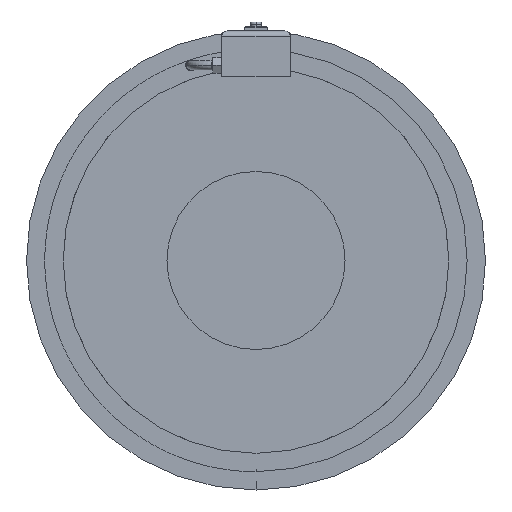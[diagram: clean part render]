
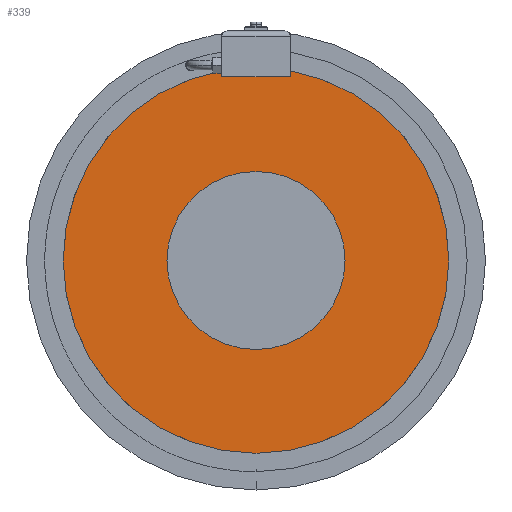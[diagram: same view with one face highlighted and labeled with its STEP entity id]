
A CAD part, front view. The second image highlights one B-rep face of the part: STEP entity #339.
In plain terms, the highlighted planar face has unit normal (0, -1, 0).
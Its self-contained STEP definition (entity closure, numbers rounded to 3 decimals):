
#339=ADVANCED_FACE('',(#714,#715),#716,.T.);
#714=FACE_OUTER_BOUND('',#1094,.T.);
#715=FACE_BOUND('',#1095,.T.);
#716=PLANE('',#1096);
#1094=EDGE_LOOP('',(#2058,#2059,#2060,#2061,#2062));
#1095=EDGE_LOOP('',(#2063,#2064));
#1096=AXIS2_PLACEMENT_3D('',#2065,#2066,#2067);
#2058=ORIENTED_EDGE('',*,*,#2356,.T.);
#2059=ORIENTED_EDGE('',*,*,#2255,.T.);
#2060=ORIENTED_EDGE('',*,*,#2570,.T.);
#2061=ORIENTED_EDGE('',*,*,#2478,.T.);
#2062=ORIENTED_EDGE('',*,*,#2368,.T.);
#2063=ORIENTED_EDGE('',*,*,#2571,.F.);
#2064=ORIENTED_EDGE('',*,*,#2250,.F.);
#2065=CARTESIAN_POINT('',(0.,-143.0,0.));
#2066=DIRECTION('',(0.,-1.0,0.));
#2067=DIRECTION('',(0.,0.0,1.0));
#2250=EDGE_CURVE('',#2731,#2733,#2734,.T.);
#2255=EDGE_CURVE('',#2742,#2739,#2743,.T.);
#2356=EDGE_CURVE('',#2915,#2742,#2916,.T.);
#2368=EDGE_CURVE('',#2937,#2915,#2938,.T.);
#2478=EDGE_CURVE('',#3084,#2937,#3085,.T.);
#2570=EDGE_CURVE('',#2739,#3084,#3208,.T.);
#2571=EDGE_CURVE('',#2733,#2731,#3209,.T.);
#2731=VERTEX_POINT('',#4327);
#2733=VERTEX_POINT('',#4330);
#2734=CIRCLE('',#4331,79.5);
#2739=VERTEX_POINT('',#4337);
#2742=VERTEX_POINT('',#4341);
#2743=CIRCLE('',#4342,172.2);
#2915=VERTEX_POINT('',#4595);
#2916=LINE('',#4596,#4597);
#2937=VERTEX_POINT('',#4628);
#2938=LINE('',#4629,#4630);
#3084=VERTEX_POINT('',#5099);
#3085=LINE('',#5100,#5101);
#3208=CIRCLE('',#5651,172.2);
#3209=CIRCLE('',#5652,79.5);
#4327=CARTESIAN_POINT('',(0.,-143.0,79.5));
#4330=CARTESIAN_POINT('',(0.,-143.0,-79.5));
#4331=AXIS2_PLACEMENT_3D('',#5788,#5789,#5790);
#4337=CARTESIAN_POINT('',(0.,-143.0,-172.2));
#4341=CARTESIAN_POINT('',(-30.75,-143.0,169.432));
#4342=AXIS2_PLACEMENT_3D('',#5796,#5797,#5798);
#4595=CARTESIAN_POINT('',(-30.75,-143.0,164.0));
#4596=CARTESIAN_POINT('',(-30.75,-143.0,92.25));
#4597=VECTOR('',#5957,1.0);
#4628=CARTESIAN_POINT('',(30.75,-143.0,164.0));
#4629=CARTESIAN_POINT('',(0.,-143.0,164.0));
#4630=VECTOR('',#5968,1.0);
#5099=CARTESIAN_POINT('',(30.75,-143.0,169.432));
#5100=CARTESIAN_POINT('',(30.75,-143.0,92.25));
#5101=VECTOR('',#6070,1.0);
#5651=AXIS2_PLACEMENT_3D('',#6198,#6199,#6200);
#5652=AXIS2_PLACEMENT_3D('',#6201,#6202,#6203);
#5788=CARTESIAN_POINT('',(0.,-143.0,0.));
#5789=DIRECTION('',(0.,-1.0,0.));
#5790=DIRECTION('',(0.,0.0,1.0));
#5796=CARTESIAN_POINT('',(0.,-143.0,0.));
#5797=DIRECTION('',(0.,-1.0,0.));
#5798=DIRECTION('',(0.,0.0,1.0));
#5957=DIRECTION('',(0.,0.0,1.0));
#5968=DIRECTION('',(-1.0,0.,0.));
#6070=DIRECTION('',(0.,0.0,-1.0));
#6198=CARTESIAN_POINT('',(0.,-143.0,0.));
#6199=DIRECTION('',(0.,-1.0,0.));
#6200=DIRECTION('',(0.,0.0,1.0));
#6201=CARTESIAN_POINT('',(0.,-143.0,0.));
#6202=DIRECTION('',(0.,-1.0,0.));
#6203=DIRECTION('',(0.,0.0,1.0));
